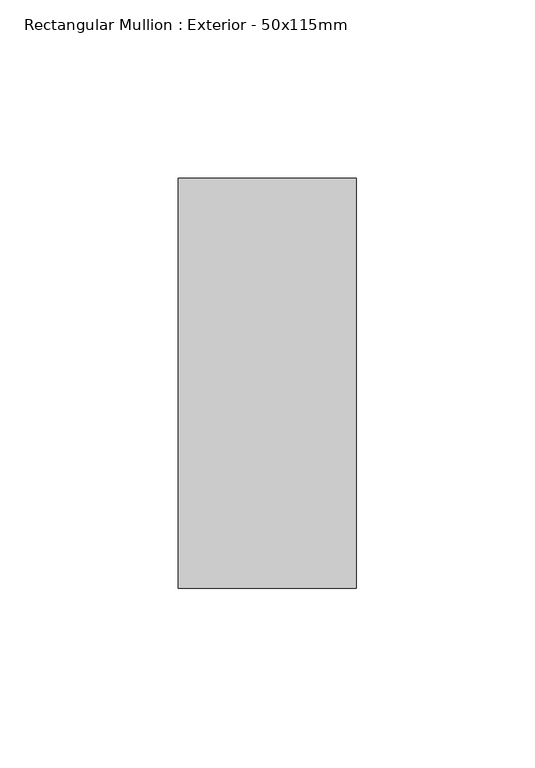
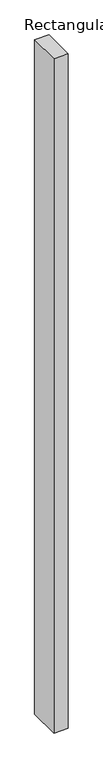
"""IFC4 building model written with IfcOpenShell, lengths in millimetres: member geometry, Rectangular Mullion : Exterior - 50x115mm."""

from ifc_helpers import new_model, si_unit, frame, origin, place, context, project, spatial, polyline, outline, extrude, source, transform, mapped, element, save


def rectangular_mullion_exterior_50x115mm_27772c88(model_context):
    return source(origin(), model_context, "Body", "SweptSolid", [
        extrude(outline(polyline([(0.0, 115.0), (0.0, 0.0), (-50.0, 0.0), (-50.0, 115.0), (0.0, 115.0)])), frame((0.0, 0.0, -2475.0), z_axis=(0.0, 0.0, 1.0), x_axis=(1.0, 0.0, 0.0)), (0.0, 0.0, 1.0), 2475.0),
    ])


if __name__ == "__main__":
    model = new_model("IFC4")
    model_context = context("Model", 3, world=origin())
    ifc_project = project(units=[si_unit("LENGTHUNIT", "METRE", prefix="MILLI")], contexts=[model_context])
    site = spatial("IfcSite", under=ifc_project)
    building = spatial("IfcBuilding", under=site)
    placement = place(None, origin())
    rectangular_mullion_exterior_50x115mm_shape = rectangular_mullion_exterior_50x115mm_27772c88(model_context)
    element("IfcMember", 1, ObjectType="Rectangular Mullion : Exterior - 50x115mm", at=placement, inside=building, context=model_context, shape_type="MappedRepresentation", body=[
        mapped(rectangular_mullion_exterior_50x115mm_shape, transform((0.0, 0.0, 0.0), x_axis=(1.0, 0.0, 0.0), y_axis=(0.0, 1.0, 0.0), z_axis=(0.0, 0.0, 1.0))),
    ])
    save(model, "model.ifc")
